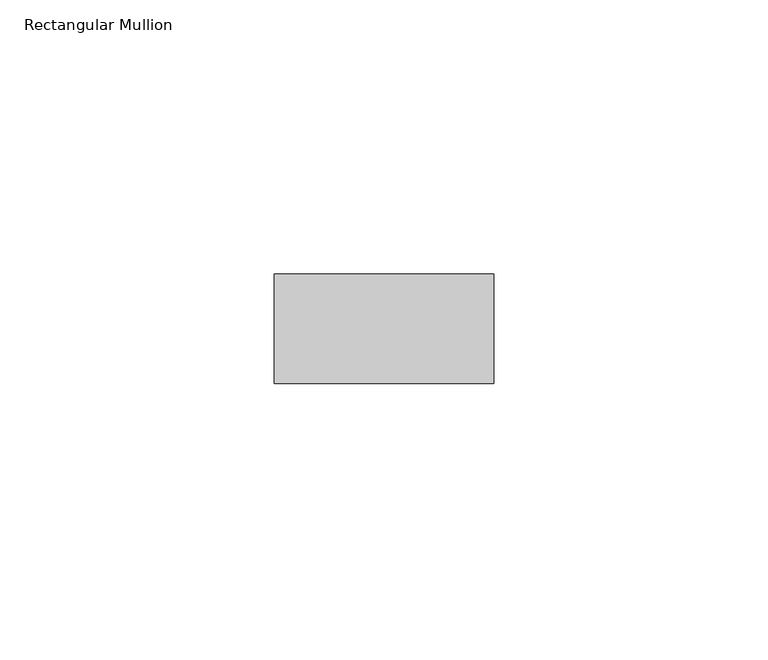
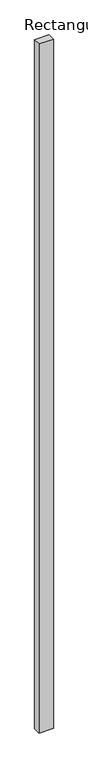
"""IFC4 building model written with IfcOpenShell, lengths in millimetres: member geometry, Rectangular Mullion : RIPA 4x2 cm."""

from ifc_helpers import new_model, si_unit, frame, origin, place, context, project, spatial, polyline, outline, extrude, source, transform, mapped, element, save


def rectangular_mullion_e8735130(model_context):
    return source(origin(), model_context, "Body", "SweptSolid", [
        extrude(outline(polyline([(20.0, 0.0), (20.0, -20.0), (-20.0, -20.0), (-20.0, 0.0), (20.0, 0.0)])), frame((0.0, 0.0, -2014.9863262), z_axis=(0.0, 0.0, 1.0), x_axis=(1.0, 0.0, 0.0)), (0.0, 0.0, 1.0), 2014.9863262),
    ])


if __name__ == "__main__":
    model = new_model("IFC4")
    model_context = context("Model", 3, world=origin())
    ifc_project = project(units=[si_unit("LENGTHUNIT", "METRE", prefix="MILLI")], contexts=[model_context])
    site = spatial("IfcSite", under=ifc_project)
    building = spatial("IfcBuilding", under=site)
    placement = place(None, origin())
    rectangular_mullion_shape = rectangular_mullion_e8735130(model_context)
    element("IfcMember", 1, ObjectType="Rectangular Mullion : RIPA 4x2 cm", at=placement, inside=building, context=model_context, shape_type="MappedRepresentation", body=[
        mapped(rectangular_mullion_shape, transform((0.0, 0.0, 0.0), x_axis=(1.0, 0.0, 0.0), y_axis=(0.0, 1.0, 0.0), z_axis=(0.0, 0.0, 1.0))),
    ])
    save(model, "model.ifc")
